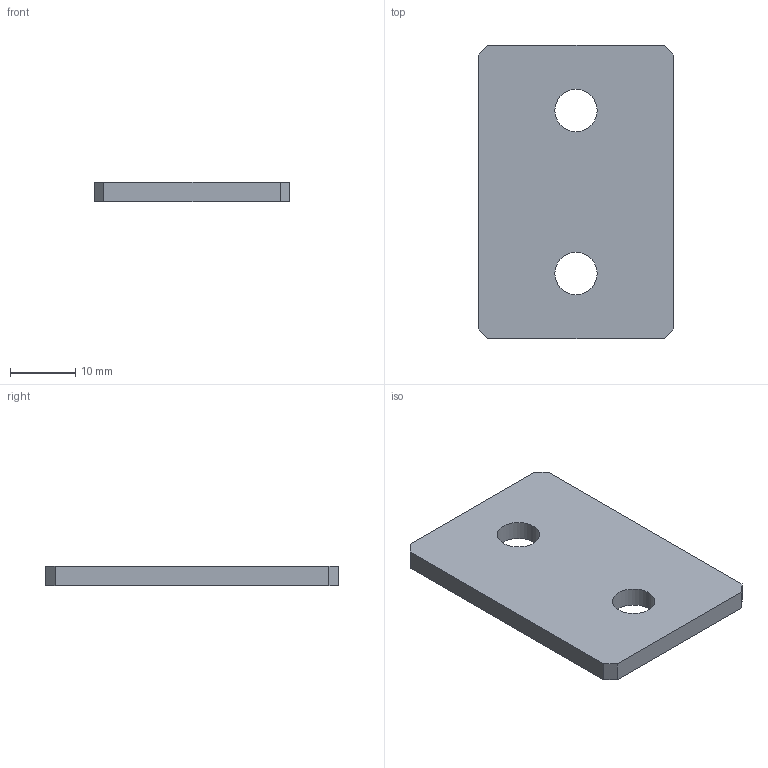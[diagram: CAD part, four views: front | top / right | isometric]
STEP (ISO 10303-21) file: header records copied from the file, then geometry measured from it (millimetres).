
FILE_DESCRIPTION (( 'STEP AP214' ), '1' );
FILE_NAME ('N20753.step', '2024-12-03T16:26:33', ( '' ), ( '' ), 'SwSTEP 2.0', 'SolidWorks 2023', '' );
FILE_SCHEMA (( 'AUTOMOTIVE_DESIGN' ));
Length unit declared in the file: millimetre
Products named in the file (1): N20753
Bounding box: 30 x 45 x 3 mm (x, y, z)
Volume: 3837.4 mm3; surface area: 3120.2 mm2
Topology: 1 solids, 1 shells, 12 faces, 30 edges, 20 vertices
Faces by surface type: plane 10, cylinder 2
Full cylindrical faces by diameter (mm): 6.5 x2
Entity records: 379 total; most frequent: CARTESIAN_POINT 61, DIRECTION 58, ORIENTED_EDGE 56, EDGE_CURVE 28, VECTOR 24, LINE 24, VERTEX_POINT 20, EDGE_LOOP 18
